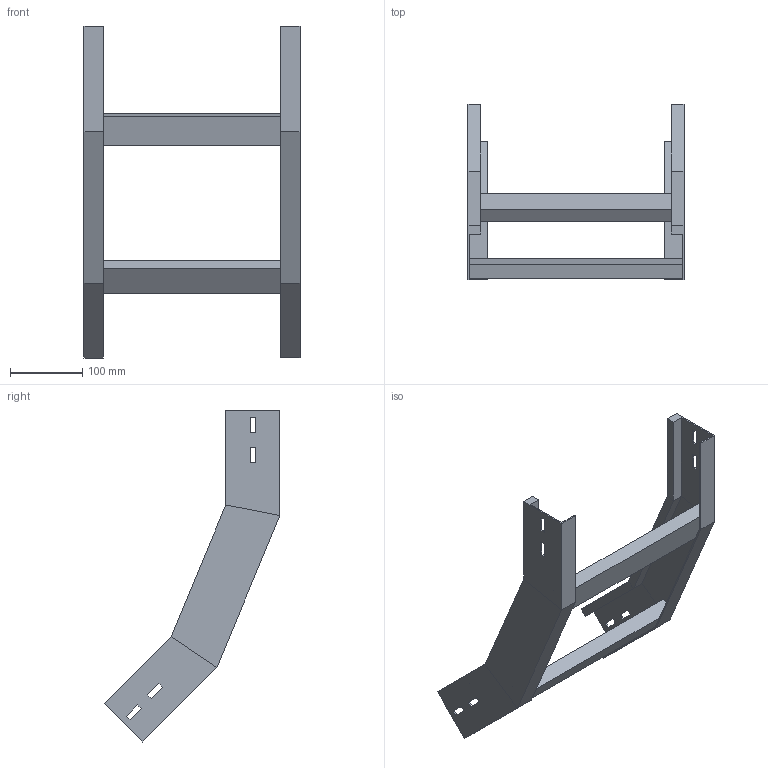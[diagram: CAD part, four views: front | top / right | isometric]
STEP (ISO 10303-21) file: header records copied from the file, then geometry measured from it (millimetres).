
FILE_DESCRIPTION (( 'STEP AP214' ), '1' );
FILE_NAME ('A2X31B5C300XX.step', '2025-03-20T10:09:31', ( '' ), ( '' ), 'SwSTEP 2.0', 'SolidWorks 2023', '' );
FILE_SCHEMA (( 'AUTOMOTIVE_DESIGN' ));
Length unit declared in the file: millimetre
Products named in the file (3): A2X31B5C300XX; TRAVERSINO_300; LONGH.SALITA_45°_H75_R500
Assembly tree (4 placements, depth 2):
  A2X31B5C300XX
    LONGH.SALITA_45°_H75_R500  x2
    TRAVERSINO_300  x2
Bounding box: 300 x 244.02 x 461.09 mm (x, y, z)
Volume: 855721.5 mm3; surface area: 308221.9 mm2
Topology: 4 solids, 4 shells, 96 faces, 232 edges, 144 vertices
Faces by surface type: plane 96
Entity records: 1472 total; most frequent: CARTESIAN_POINT 243, ORIENTED_EDGE 232, DIRECTION 226, VECTOR 116, EDGE_CURVE 116, LINE 116, VERTEX_POINT 72, EDGE_LOOP 56
